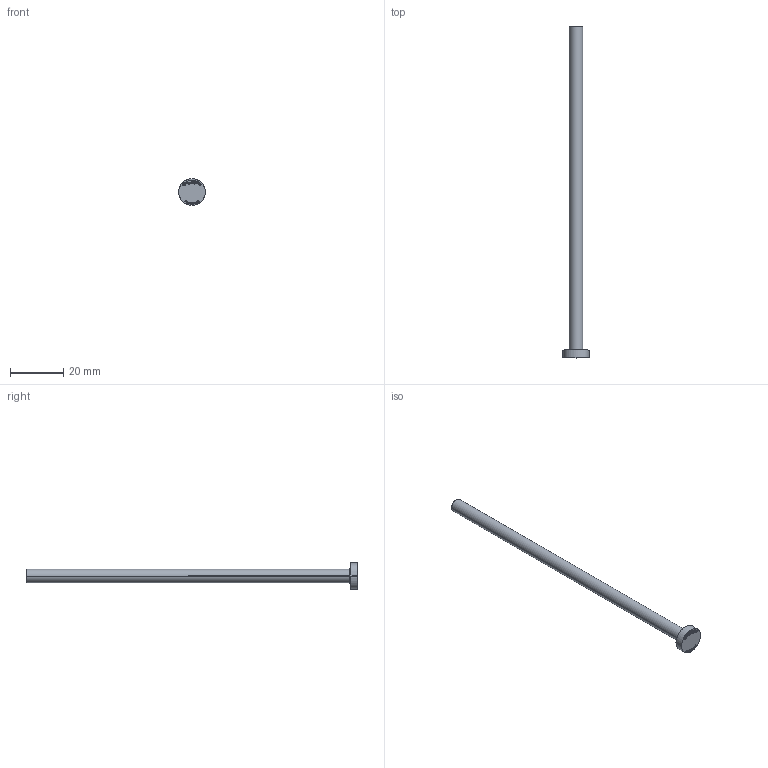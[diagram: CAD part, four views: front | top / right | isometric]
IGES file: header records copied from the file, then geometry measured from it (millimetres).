
Start section: SolidWorks IGES file using analytic representation for surfaces
Global section: file name: C:\Users\User\Downloads\Matripeça 31-08 tar\PB - PINO EXTRATOR TIPO _B_ (CATÁLOGO)\PB05,0\PB05,0125.IGS; native system: SolidWorks 2024; preprocessor: SolidWorks 2024; author: User; date: 260901.142538; units: millimetre
Bounding box: 10 x 125 x 10 mm (x, y, z)
Surface area: 2173.6 mm2 (no closed solid volume)
Topology: 0 solids, 0 shells, 402 faces, 3523 edges, 3523 vertices
Faces by surface type: bspline 388, revolution 14
